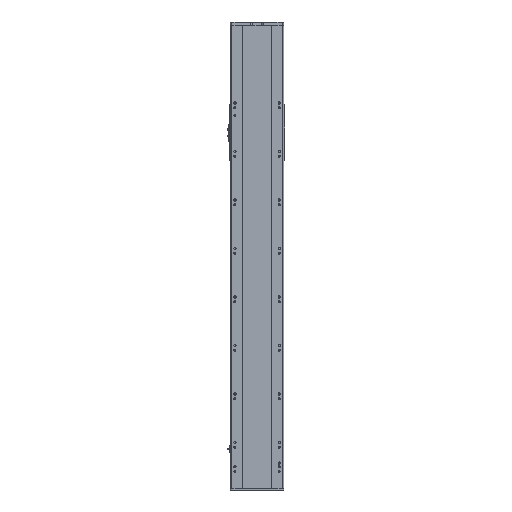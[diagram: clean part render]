
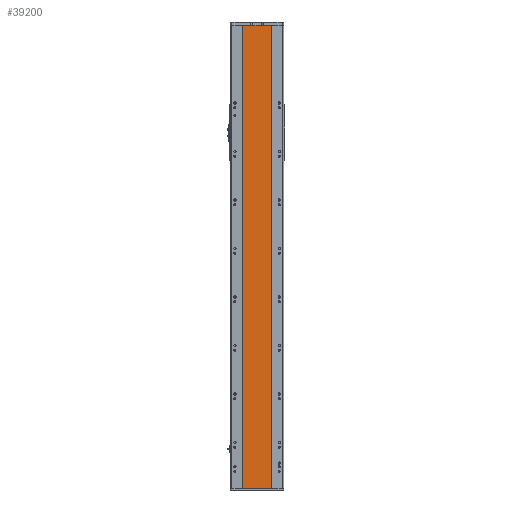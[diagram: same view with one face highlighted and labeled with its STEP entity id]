
A CAD part, front view. The second image highlights one B-rep face of the part: STEP entity #39200.
In plain terms, the highlighted planar face has unit normal (0, -1, 0).
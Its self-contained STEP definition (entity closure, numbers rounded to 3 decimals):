
#41 = ORIENTED_EDGE ( 'NONE', *, *, #10482, .T. ) ;
#1618 = DIRECTION ( 'NONE',  ( 0., 0., -1. ) ) ;
#2300 = ORIENTED_EDGE ( 'NONE', *, *, #30488, .F. ) ;
#4439 = VECTOR ( 'NONE', #39370, 1000. ) ;
#4654 = PLANE ( 'NONE',  #36180 ) ;
#8142 = LINE ( 'NONE', #39762, #15339 ) ;
#8456 = VERTEX_POINT ( 'NONE', #9349 ) ;
#9349 = CARTESIAN_POINT ( 'NONE',  ( -59., 1., -955.5 ) ) ;
#10205 = CARTESIAN_POINT ( 'NONE',  ( 59., 1., -955.5 ) ) ;
#10482 = EDGE_CURVE ( 'NONE', #13709, #8456, #26859, .T. ) ;
#10536 = EDGE_CURVE ( 'NONE', #8456, #31337, #8142, .T. ) ;
#13709 = VERTEX_POINT ( 'NONE', #30550 ) ;
#14591 = CARTESIAN_POINT ( 'NONE',  ( -59., 1., 955.5 ) ) ;
#14654 = CARTESIAN_POINT ( 'NONE',  ( 59., 1., 955.5 ) ) ;
#15339 = VECTOR ( 'NONE', #33879, 1000. ) ;
#15365 = CARTESIAN_POINT ( 'NONE',  ( -59., 1., 955.5 ) ) ;
#16298 = VECTOR ( 'NONE', #1618, 1000. ) ;
#18272 = EDGE_CURVE ( 'NONE', #22288, #31337, #20842, .T. ) ;
#20825 = CARTESIAN_POINT ( 'NONE',  ( 59., 1., 955.5 ) ) ;
#20842 = LINE ( 'NONE', #14654, #4439 ) ;
#22288 = VERTEX_POINT ( 'NONE', #20825 ) ;
#22769 = VECTOR ( 'NONE', #30527, 1000. ) ;
#23266 = LINE ( 'NONE', #15365, #22769 ) ;
#26221 = EDGE_LOOP ( 'NONE', ( #27530, #26432, #2300, #41 ) ) ;
#26432 = ORIENTED_EDGE ( 'NONE', *, *, #18272, .F. ) ;
#26859 = LINE ( 'NONE', #29591, #16298 ) ;
#27097 = DIRECTION ( 'NONE',  ( -1., 0., 0. ) ) ;
#27367 = DIRECTION ( 'NONE',  ( 0., 1., 0. ) ) ;
#27530 = ORIENTED_EDGE ( 'NONE', *, *, #10536, .T. ) ;
#28650 = FACE_OUTER_BOUND ( 'NONE', #26221, .T. ) ;
#29591 = CARTESIAN_POINT ( 'NONE',  ( -59., 1., 955.5 ) ) ;
#30488 = EDGE_CURVE ( 'NONE', #13709, #22288, #23266, .T. ) ;
#30527 = DIRECTION ( 'NONE',  ( 1., 0., 0. ) ) ;
#30550 = CARTESIAN_POINT ( 'NONE',  ( -59., 1., 955.5 ) ) ;
#31337 = VERTEX_POINT ( 'NONE', #10205 ) ;
#33879 = DIRECTION ( 'NONE',  ( 1., 0., 0. ) ) ;
#36180 = AXIS2_PLACEMENT_3D ( 'NONE', #14591, #27367, #27097 ) ;
#39200 = ADVANCED_FACE ( 'NONE', ( #28650 ), #4654, .F. ) ;
#39370 = DIRECTION ( 'NONE',  ( 0., 0., -1. ) ) ;
#39762 = CARTESIAN_POINT ( 'NONE',  ( -59., 1., -955.5 ) ) ;
